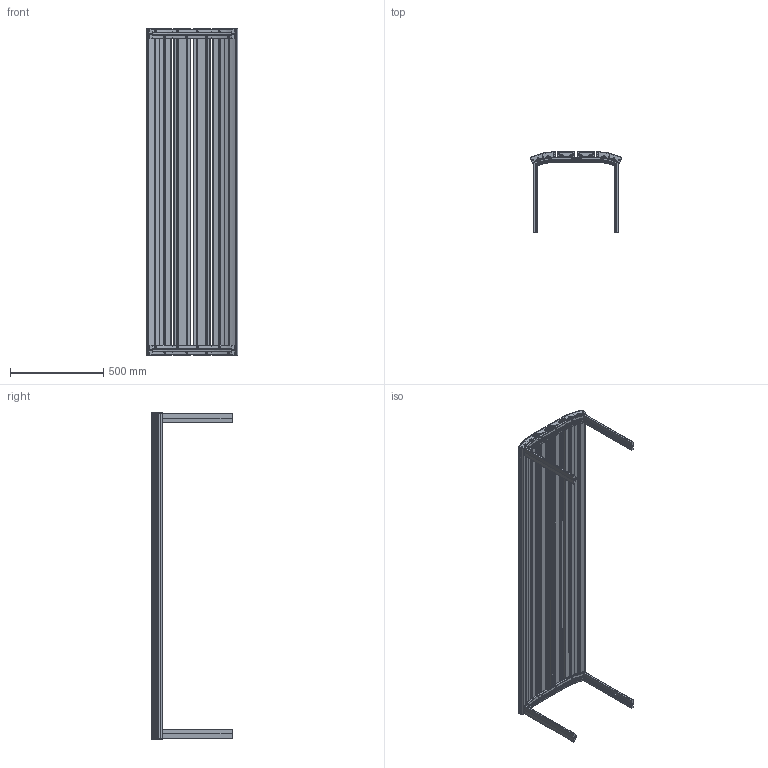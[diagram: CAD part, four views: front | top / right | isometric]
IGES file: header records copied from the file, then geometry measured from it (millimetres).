
Start section: SolidWorks IGES file using analytic representation for surfaces
Global section: file name: C:\SANTACOLE_PDM\Proyectos Catálogo\PROD-P06-035 -- NEOROMÁNTICO LIVIANO\6_Técnico comercial\3D WEB\NEOROMANTICO BANQUETA 100% ALUMINIO 175cm.IGS; native system: SolidWorks 2013; preprocessor: SolidWorks 2013; author: jordi.munoz; date: 150611.140404; units: millimetre
Bounding box: 491.14 x 429.97 x 1754.33 mm (x, y, z)
Surface area: 5599073 mm2 (no closed solid volume)
Topology: 0 solids, 0 shells, 3748 faces, 31488 edges, 31448 vertices
Faces by surface type: bspline 2238, revolution 1510
